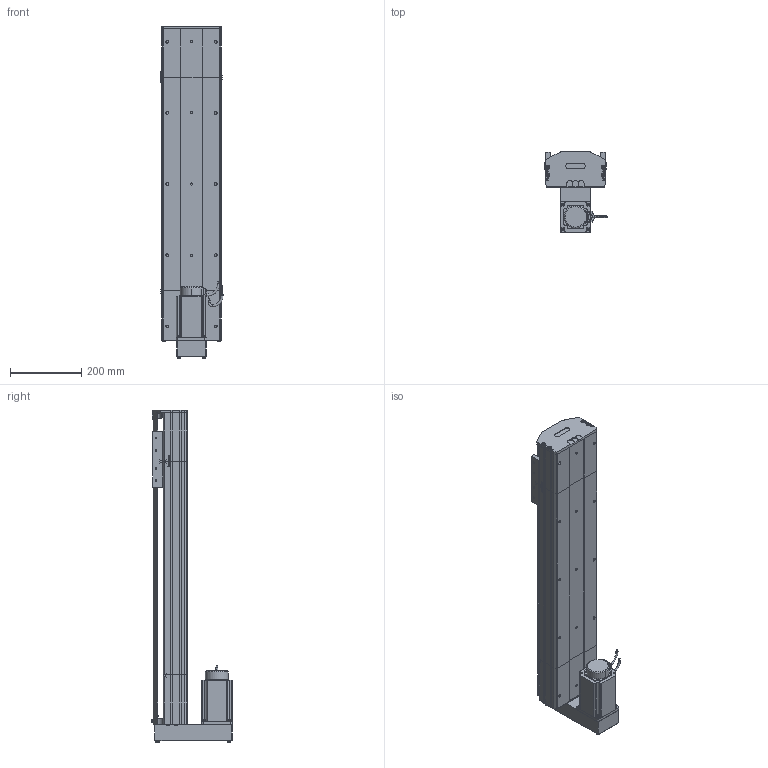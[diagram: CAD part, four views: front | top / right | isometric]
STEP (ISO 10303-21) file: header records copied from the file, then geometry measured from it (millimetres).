
FILE_DESCRIPTION (( 'STEP AP214' ), '1' );
FILE_NAME ('D17 TSH BM S600.STEP', '2010-06-29T14:53:01', ( 'Christophe Gaillard' ), ( 'SGA' ), 'SwSTEP 2.0', 'SolidWorks 2010', '' );
FILE_SCHEMA (( 'AUTOMOTIVE_DESIGN' ));
Length unit declared in the file: millimetre
Products named in the file (33): couvercle D17_Default; Arbre+rail tail D17; head BM_Default; vis M5 L25_Default; vis M5 L8 90°_Default; plaque de  bout tail D17_Default; corpl tail D17_Default; plaque de  bout BM head D17_Default; couvercle D17 head_Default; corpl head D17 BM_Default; corp D17 600_Default; arbre + rail D17 Course 600 ; course 600 D17_Default; tete d''axe haut D17; tete d''axe bas D17; Tail D17_Default; couvercle D17 course L600_Default; D17  TSH BM S600; renvoi Bm_Default; Arbre+rail head D17; Moteur motionking 90BLDC125A-640; codeur 90BLDC125-640; guide D17; Chariot D17; vis M5 L5_Default; chariot D17S_Default; avant 90BLDC125A-640; Cvis M5 L70_Default; corps 90BLDC125A-640; vis M5 L12_Default; Vis M5 L16-2_Default; Conecteur_Default; Conecteur2_Default
Assembly tree (55 placements, depth 4):
  D17  TSH BM S600
    head BM_Default
      vis M5 L12_Default  x8
      Vis M5 L16-2_Default  x4
      Cvis M5 L70_Default  x2
      vis M5 L5_Default  x2
      Moteur motionking 90BLDC125A-640
        avant 90BLDC125A-640
        Conecteur2_Default
        corps 90BLDC125A-640
        codeur 90BLDC125-640
        Conecteur_Default
      couvercle D17 head_Default
      corpl head D17 BM_Default
      renvoi Bm_Default
      plaque de  bout BM head D17_Default
      Arbre+rail head D17
    Tail D17_Default
      vis M5 L8 90°_Default  x2
      vis M5 L25_Default  x2
      plaque de  bout tail D17_Default
      vis M5 L12_Default  x4
      couvercle D17_Default
      corpl tail D17_Default
      tete d''axe haut D17
      tete d''axe bas D17
      Arbre+rail tail D17
    chariot D17S_Default
      guide D17  x2
      vis M5 L12_Default  x4
      Chariot D17
    course 600 D17_Default
      arbre + rail D17 Course 600 
      corp D17 600_Default
      couvercle D17 course L600_Default
Bounding box: 174.95 x 225.7 x 932.7 mm (x, y, z)
Volume: 6692509.1 mm3; surface area: 1666540.4 mm2
Topology: 80 solids, 80 shells, 2239 faces, 5611 edges, 3620 vertices
Faces by surface type: plane 1396, cylinder 566, bspline 136, torus 73, cone 64, sphere 4
Entity records: 72205 total; most frequent: CARTESIAN_POINT 22578, ORIENTED_EDGE 8730, DIRECTION 8186, EDGE_CURVE 4365, VECTOR 3038, LINE 3038, VERTEX_POINT 2866, AXIS2_PLACEMENT_3D 2574
